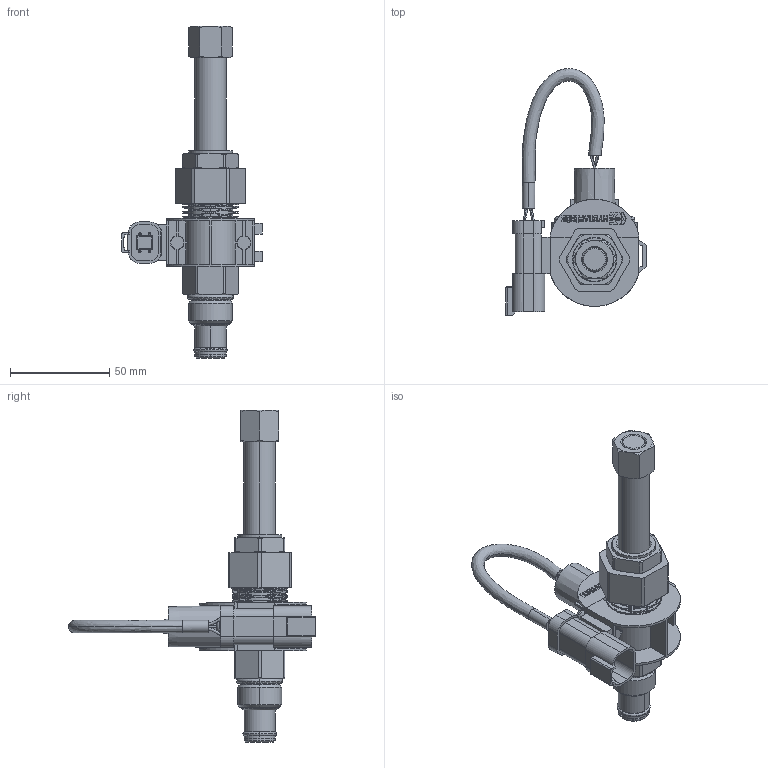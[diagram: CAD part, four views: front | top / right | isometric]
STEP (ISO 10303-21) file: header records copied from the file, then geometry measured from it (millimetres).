
FILE_DESCRIPTION((''),'2;1');
FILE_NAME('ASM0005_ASM','2021-06-23T15:50:42',('AB7'),(''),'CREO PARAMETRIC BY PTC INC, 2018020','CREO PARAMETRIC BY PTC INC, 2018020','');
FILE_SCHEMA(('CONFIG_CONTROL_DESIGN'));
Products named in the file (3): SV10-P21A; PRT0012; ASM0005_ASM
Assembly tree (2 placements, depth 2):
  ASM0005_ASM
    SV10-P21A
    PRT0012
Bounding box: 70.76 x 124.52 x 167.43 mm (x, y, z)
Volume: 100429.4 mm3; surface area: 44759.4 mm2
Topology: 2 solids, 2 shells, 893 faces, 2510 edges, 1623 vertices
Faces by surface type: plane 410, cylinder 237, cone 78, bspline 66, extrusion 64, torus 22, revolution 8, sphere 8
Entity records: 39491 total; most frequent: CARTESIAN_POINT 17627, ORIENTED_EDGE 4996, DIRECTION 3761, EDGE_CURVE 2498, VERTEX_POINT 1623, VECTOR 1395, LINE 1331, AXIS2_PLACEMENT_3D 1179
